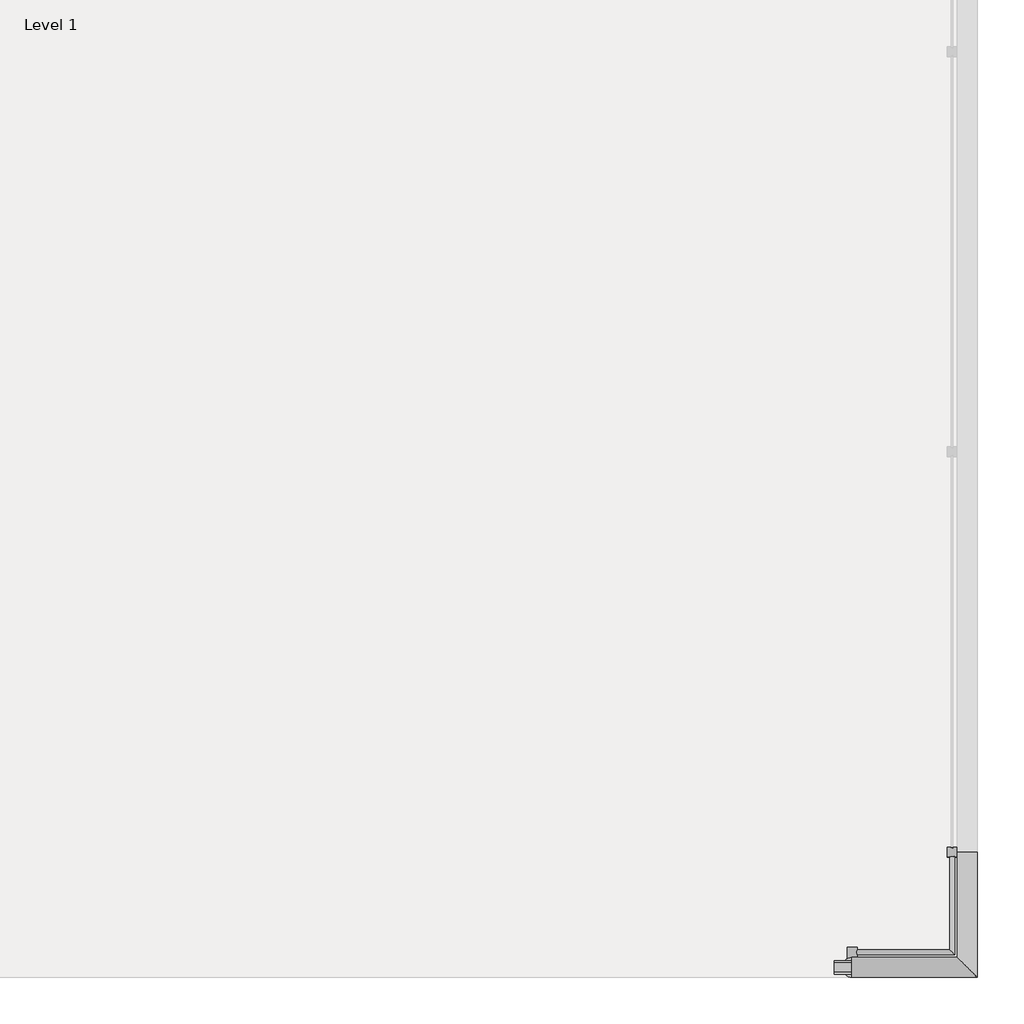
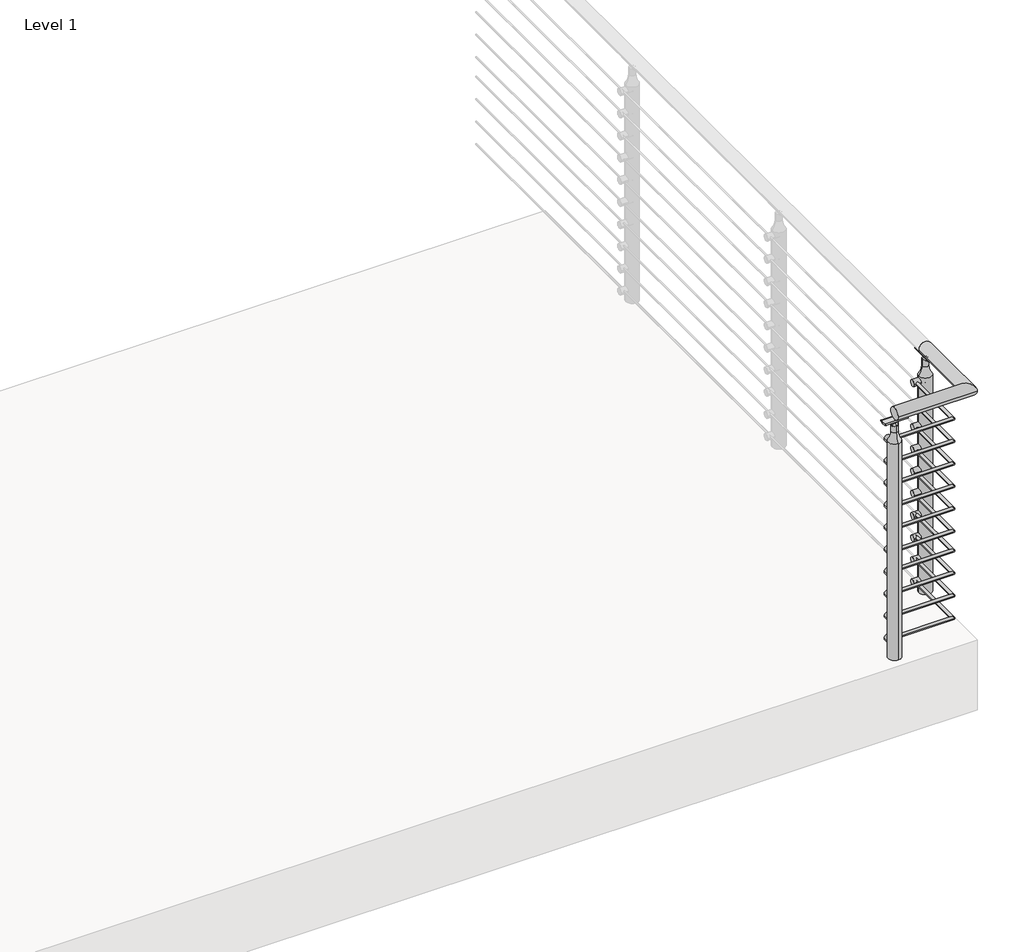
# One storey, part 6 of 21: 1 railing.
"""IFC4 building model written with IfcOpenShell, lengths in millimetres."""

from ifc_helpers import new_model, si_unit, point, frame, frame_2d, origin, place, context, project, spatial, polyline, circle_curve, ellipse_curve, trimmed, segment, composite_curve, outline, extrude, element, save
from ifc_brep_helpers import plane_surface, cylinder_surface, revolved_surface, advanced_brep

model = new_model("IFC4")

# Units and contexts
model_context = context("Model", 3, world=origin())
ifc_project = project(units=[si_unit("LENGTHUNIT", "METRE", prefix="MILLI")], contexts=[model_context])

# Site, building, storey
site = spatial("IfcSite", under=ifc_project)
building = spatial("IfcBuilding", under=site)
storey = spatial("IfcBuildingStorey", under=building, Name="Level 1", Elevation=0.0)

# Railing
placement = place(None, origin())
element("IfcRailing", 1, ObjectType="VIVA-CIRCA-Multiline-Cable-Weld Mount-Corner", at=placement, inside=storey, context=model_context, shape_type="SolidModel", body=[
    advanced_brep(
    [(45029.2855247, -73784.5943064, 1054.1), (45029.2855247, -73733.7943064, 1054.1), (45346.7855247, -73784.5943064, 1054.1), (45295.9855247, -73733.7943064, 1054.1), (45346.7855247, -73467.0943064, 1054.1), (45295.9855247, -73467.0943064, 1054.1)],
    [
        (0, 1, circle_curve(frame((45029.2855247, -73759.1943064, 1054.1), z_axis=(-1.0, 0.0, 0.0), x_axis=(0.0, 1.0, 0.0)), 25.4)),
        (1, 0, circle_curve(frame((45029.2855247, -73759.1943064, 1054.1), z_axis=(-1.0, 0.0, 0.0), x_axis=(0.0, 1.0, 0.0)), 25.4)),
        (0, 2),
        (2, 3, ellipse_curve(frame((45321.3855247, -73759.1943064, 1054.1), z_axis=(-0.7071067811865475, -0.7071067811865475, 0.0), x_axis=(-0.7071067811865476, 0.7071067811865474, 0.0)), 35.9210245, 25.4)),
        (3, 1),
        (3, 2, ellipse_curve(frame((45321.3855247, -73759.1943064, 1054.1), z_axis=(-0.7071067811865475, -0.7071067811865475, 0.0), x_axis=(-0.7071067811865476, 0.7071067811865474, 0.0)), 35.9210245, 25.4)),
        (4, 5, circle_curve(frame((45321.3855247, -73467.0943064, 1054.1), z_axis=(0.0, 1.0, 0.0), x_axis=(-1.0, 0.0, 0.0)), 25.4)),
        (5, 4, circle_curve(frame((45321.3855247, -73467.0943064, 1054.1), z_axis=(0.0, 1.0, 0.0), x_axis=(-1.0, 0.0, 0.0)), 25.4)),
        (2, 4),
        (5, 3),
    ],
    [
        plane_surface(frame((45029.2855247, -73759.1943064, 1079.5), z_axis=(-1.0, 0.0, 0.0), x_axis=(0.0, 1.0, 0.0))),
        cylinder_surface(frame((45029.2855247, -73759.1943064, 1054.1), z_axis=(-1.0, 0.0, 0.0), x_axis=(0.0, 1.0, 0.0)), 25.4),
        plane_surface(frame((45321.3855247, -73467.0943064, 1079.5), z_axis=(0.0, 1.0, 0.0), x_axis=(0.0, 0.0, 1.0))),
        cylinder_surface(frame((45321.3855247, -73759.1943064, 1054.1), z_axis=(0.0, -1.0, 0.0), x_axis=(-1.0, 0.0, 0.0)), 25.4),
    ],
    [
        (0, [[1, 2]]),
        (1, [[-1, 3, 4, 5]]),
        (1, [[-2, -5, 6, -3]]),
        (2, [[7, 8]]),
        (3, [[-4, 9, -8, 10]]),
        (3, [[-6, -10, -7, -9]]),
    ],
),
    advanced_brep(
    [(45029.2855247, -73714.7443064, 920.75), (45029.2855247, -73727.4443064, 920.75), (45276.9355247, -73714.7443064, 920.75), (45289.6355247, -73727.4443064, 920.75), (45276.9355247, -73467.0943064, 920.75), (45289.6355247, -73467.0943064, 920.75)],
    [
        (0, 1, circle_curve(frame((45029.2855247, -73721.0943064, 920.75), z_axis=(-1.0, 0.0, 0.0), x_axis=(0.0, -1.0, 0.0)), 6.35)),
        (1, 0, circle_curve(frame((45029.2855247, -73721.0943064, 920.75), z_axis=(-1.0, 0.0, 0.0), x_axis=(0.0, -1.0, 0.0)), 6.35)),
        (0, 2),
        (2, 3, ellipse_curve(frame((45283.2855247, -73721.0943064, 920.75), z_axis=(-0.7071067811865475, -0.7071067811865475, 0.0), x_axis=(-0.7071067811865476, 0.7071067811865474, 0.0)), 8.9802561, 6.35)),
        (3, 1),
        (3, 2, ellipse_curve(frame((45283.2855247, -73721.0943064, 920.75), z_axis=(-0.7071067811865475, -0.7071067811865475, 0.0), x_axis=(-0.7071067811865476, 0.7071067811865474, 0.0)), 8.9802561, 6.35)),
        (4, 5, circle_curve(frame((45283.2855247, -73467.0943064, 920.75), z_axis=(0.0, 1.0, 0.0), x_axis=(1.0, 0.0, 0.0)), 6.35)),
        (5, 4, circle_curve(frame((45283.2855247, -73467.0943064, 920.75), z_axis=(0.0, 1.0, 0.0), x_axis=(1.0, 0.0, 0.0)), 6.35)),
        (2, 4),
        (5, 3),
    ],
    [
        plane_surface(frame((45029.2855247, -73721.0943064, 927.1), z_axis=(-1.0, 0.0, 0.0), x_axis=(0.0, 1.0, 0.0))),
        cylinder_surface(frame((45029.2855247, -73721.0943064, 920.75), z_axis=(-1.0, 0.0, 0.0), x_axis=(0.0, -1.0, 0.0)), 6.35),
        plane_surface(frame((45283.2855247, -73467.0943064, 927.1), z_axis=(0.0, 1.0, 0.0), x_axis=(0.0, 0.0, 1.0))),
        cylinder_surface(frame((45283.2855247, -73721.0943064, 920.75), z_axis=(0.0, -1.0, 0.0), x_axis=(1.0, 0.0, 0.0)), 6.35),
    ],
    [
        (0, [[1, 2]]),
        (1, [[-1, 3, 4, 5]]),
        (1, [[-2, -5, 6, -3]]),
        (2, [[7, 8]]),
        (3, [[-4, 9, -8, 10]]),
        (3, [[-6, -10, -7, -9]]),
    ],
),
    advanced_brep(
    [(45029.2855247, -73714.7443064, 825.5), (45029.2855247, -73727.4443064, 825.5), (45276.9355247, -73714.7443064, 825.5), (45289.6355247, -73727.4443064, 825.5), (45276.9355247, -73467.0943064, 825.5), (45289.6355247, -73467.0943064, 825.5)],
    [
        (0, 1, circle_curve(frame((45029.2855247, -73721.0943064, 825.5), z_axis=(-1.0, 0.0, 0.0), x_axis=(0.0, -1.0, 0.0)), 6.35)),
        (1, 0, circle_curve(frame((45029.2855247, -73721.0943064, 825.5), z_axis=(-1.0, 0.0, 0.0), x_axis=(0.0, -1.0, 0.0)), 6.35)),
        (0, 2),
        (2, 3, ellipse_curve(frame((45283.2855247, -73721.0943064, 825.5), z_axis=(-0.7071067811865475, -0.7071067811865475, 0.0), x_axis=(-0.7071067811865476, 0.7071067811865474, 0.0)), 8.9802561, 6.35)),
        (3, 1),
        (3, 2, ellipse_curve(frame((45283.2855247, -73721.0943064, 825.5), z_axis=(-0.7071067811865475, -0.7071067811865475, 0.0), x_axis=(-0.7071067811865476, 0.7071067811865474, 0.0)), 8.9802561, 6.35)),
        (4, 5, circle_curve(frame((45283.2855247, -73467.0943064, 825.5), z_axis=(0.0, 1.0, 0.0), x_axis=(1.0, 0.0, 0.0)), 6.35)),
        (5, 4, circle_curve(frame((45283.2855247, -73467.0943064, 825.5), z_axis=(0.0, 1.0, 0.0), x_axis=(1.0, 0.0, 0.0)), 6.35)),
        (2, 4),
        (5, 3),
    ],
    [
        plane_surface(frame((45029.2855247, -73721.0943064, 831.85), z_axis=(-1.0, 0.0, 0.0), x_axis=(0.0, 1.0, 0.0))),
        cylinder_surface(frame((45029.2855247, -73721.0943064, 825.5), z_axis=(-1.0, 0.0, 0.0), x_axis=(0.0, -1.0, 0.0)), 6.35),
        plane_surface(frame((45283.2855247, -73467.0943064, 831.85), z_axis=(0.0, 1.0, 0.0), x_axis=(0.0, 0.0, 1.0))),
        cylinder_surface(frame((45283.2855247, -73721.0943064, 825.5), z_axis=(0.0, -1.0, 0.0), x_axis=(1.0, 0.0, 0.0)), 6.35),
    ],
    [
        (0, [[1, 2]]),
        (1, [[-1, 3, 4, 5]]),
        (1, [[-2, -5, 6, -3]]),
        (2, [[7, 8]]),
        (3, [[-4, 9, -8, 10]]),
        (3, [[-6, -10, -7, -9]]),
    ],
),
    advanced_brep(
    [(45029.2855247, -73714.7443064, 730.25), (45029.2855247, -73727.4443064, 730.25), (45276.9355247, -73714.7443064, 730.25), (45289.6355247, -73727.4443064, 730.25), (45276.9355247, -73467.0943064, 730.25), (45289.6355247, -73467.0943064, 730.25)],
    [
        (0, 1, circle_curve(frame((45029.2855247, -73721.0943064, 730.25), z_axis=(-1.0, 0.0, 0.0), x_axis=(0.0, -1.0, 0.0)), 6.35)),
        (1, 0, circle_curve(frame((45029.2855247, -73721.0943064, 730.25), z_axis=(-1.0, 0.0, 0.0), x_axis=(0.0, -1.0, 0.0)), 6.35)),
        (0, 2),
        (2, 3, ellipse_curve(frame((45283.2855247, -73721.0943064, 730.25), z_axis=(-0.7071067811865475, -0.7071067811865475, 0.0), x_axis=(-0.7071067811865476, 0.7071067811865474, 0.0)), 8.9802561, 6.35)),
        (3, 1),
        (3, 2, ellipse_curve(frame((45283.2855247, -73721.0943064, 730.25), z_axis=(-0.7071067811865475, -0.7071067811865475, 0.0), x_axis=(-0.7071067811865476, 0.7071067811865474, 0.0)), 8.9802561, 6.35)),
        (4, 5, circle_curve(frame((45283.2855247, -73467.0943064, 730.25), z_axis=(0.0, 1.0, 0.0), x_axis=(1.0, 0.0, 0.0)), 6.35)),
        (5, 4, circle_curve(frame((45283.2855247, -73467.0943064, 730.25), z_axis=(0.0, 1.0, 0.0), x_axis=(1.0, 0.0, 0.0)), 6.35)),
        (2, 4),
        (5, 3),
    ],
    [
        plane_surface(frame((45029.2855247, -73721.0943064, 736.6), z_axis=(-1.0, 0.0, 0.0), x_axis=(0.0, 1.0, 0.0))),
        cylinder_surface(frame((45029.2855247, -73721.0943064, 730.25), z_axis=(-1.0, 0.0, 0.0), x_axis=(0.0, -1.0, 0.0)), 6.35),
        plane_surface(frame((45283.2855247, -73467.0943064, 736.6), z_axis=(0.0, 1.0, 0.0), x_axis=(0.0, 0.0, 1.0))),
        cylinder_surface(frame((45283.2855247, -73721.0943064, 730.25), z_axis=(0.0, -1.0, 0.0), x_axis=(1.0, 0.0, 0.0)), 6.35),
    ],
    [
        (0, [[1, 2]]),
        (1, [[-1, 3, 4, 5]]),
        (1, [[-2, -5, 6, -3]]),
        (2, [[7, 8]]),
        (3, [[-4, 9, -8, 10]]),
        (3, [[-6, -10, -7, -9]]),
    ],
),
    advanced_brep(
    [(45029.2855247, -73714.7443064, 635.0), (45029.2855247, -73727.4443064, 635.0), (45276.9355247, -73714.7443064, 635.0), (45289.6355247, -73727.4443064, 635.0), (45276.9355247, -73467.0943064, 635.0), (45289.6355247, -73467.0943064, 635.0)],
    [
        (0, 1, circle_curve(frame((45029.2855247, -73721.0943064, 635.0), z_axis=(-1.0, 0.0, 0.0), x_axis=(0.0, -1.0, 0.0)), 6.35)),
        (1, 0, circle_curve(frame((45029.2855247, -73721.0943064, 635.0), z_axis=(-1.0, 0.0, 0.0), x_axis=(0.0, -1.0, 0.0)), 6.35)),
        (0, 2),
        (2, 3, ellipse_curve(frame((45283.2855247, -73721.0943064, 635.0), z_axis=(-0.7071067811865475, -0.7071067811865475, 0.0), x_axis=(-0.7071067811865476, 0.7071067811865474, 0.0)), 8.9802561, 6.35)),
        (3, 1),
        (3, 2, ellipse_curve(frame((45283.2855247, -73721.0943064, 635.0), z_axis=(-0.7071067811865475, -0.7071067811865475, 0.0), x_axis=(-0.7071067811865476, 0.7071067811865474, 0.0)), 8.9802561, 6.35)),
        (4, 5, circle_curve(frame((45283.2855247, -73467.0943064, 635.0), z_axis=(0.0, 1.0, 0.0), x_axis=(1.0, 0.0, 0.0)), 6.35)),
        (5, 4, circle_curve(frame((45283.2855247, -73467.0943064, 635.0), z_axis=(0.0, 1.0, 0.0), x_axis=(1.0, 0.0, 0.0)), 6.35)),
        (2, 4),
        (5, 3),
    ],
    [
        plane_surface(frame((45029.2855247, -73721.0943064, 641.35), z_axis=(-1.0, 0.0, 0.0), x_axis=(0.0, 1.0, 0.0))),
        cylinder_surface(frame((45029.2855247, -73721.0943064, 635.0), z_axis=(-1.0, 0.0, 0.0), x_axis=(0.0, -1.0, 0.0)), 6.35),
        plane_surface(frame((45283.2855247, -73467.0943064, 641.35), z_axis=(0.0, 1.0, 0.0), x_axis=(0.0, 0.0, 1.0))),
        cylinder_surface(frame((45283.2855247, -73721.0943064, 635.0), z_axis=(0.0, -1.0, 0.0), x_axis=(1.0, 0.0, 0.0)), 6.35),
    ],
    [
        (0, [[1, 2]]),
        (1, [[-1, 3, 4, 5]]),
        (1, [[-2, -5, 6, -3]]),
        (2, [[7, 8]]),
        (3, [[-4, 9, -8, 10]]),
        (3, [[-6, -10, -7, -9]]),
    ],
),
    advanced_brep(
    [(45029.2855247, -73714.7443064, 539.75), (45029.2855247, -73727.4443064, 539.75), (45276.9355247, -73714.7443064, 539.75), (45289.6355247, -73727.4443064, 539.75), (45276.9355247, -73467.0943064, 539.75), (45289.6355247, -73467.0943064, 539.75)],
    [
        (0, 1, circle_curve(frame((45029.2855247, -73721.0943064, 539.75), z_axis=(-1.0, 0.0, 0.0), x_axis=(0.0, -1.0, 0.0)), 6.35)),
        (1, 0, circle_curve(frame((45029.2855247, -73721.0943064, 539.75), z_axis=(-1.0, 0.0, 0.0), x_axis=(0.0, -1.0, 0.0)), 6.35)),
        (0, 2),
        (2, 3, ellipse_curve(frame((45283.2855247, -73721.0943064, 539.75), z_axis=(-0.7071067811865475, -0.7071067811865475, 0.0), x_axis=(-0.7071067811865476, 0.7071067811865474, 0.0)), 8.9802561, 6.35)),
        (3, 1),
        (3, 2, ellipse_curve(frame((45283.2855247, -73721.0943064, 539.75), z_axis=(-0.7071067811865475, -0.7071067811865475, 0.0), x_axis=(-0.7071067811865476, 0.7071067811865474, 0.0)), 8.9802561, 6.35)),
        (4, 5, circle_curve(frame((45283.2855247, -73467.0943064, 539.75), z_axis=(0.0, 1.0, 0.0), x_axis=(1.0, 0.0, 0.0)), 6.35)),
        (5, 4, circle_curve(frame((45283.2855247, -73467.0943064, 539.75), z_axis=(0.0, 1.0, 0.0), x_axis=(1.0, 0.0, 0.0)), 6.35)),
        (2, 4),
        (5, 3),
    ],
    [
        plane_surface(frame((45029.2855247, -73721.0943064, 546.1), z_axis=(-1.0, 0.0, 0.0), x_axis=(0.0, 1.0, 0.0))),
        cylinder_surface(frame((45029.2855247, -73721.0943064, 539.75), z_axis=(-1.0, 0.0, 0.0), x_axis=(0.0, -1.0, 0.0)), 6.35),
        plane_surface(frame((45283.2855247, -73467.0943064, 546.1), z_axis=(0.0, 1.0, 0.0), x_axis=(0.0, 0.0, 1.0))),
        cylinder_surface(frame((45283.2855247, -73721.0943064, 539.75), z_axis=(0.0, -1.0, 0.0), x_axis=(1.0, 0.0, 0.0)), 6.35),
    ],
    [
        (0, [[1, 2]]),
        (1, [[-1, 3, 4, 5]]),
        (1, [[-2, -5, 6, -3]]),
        (2, [[7, 8]]),
        (3, [[-4, 9, -8, 10]]),
        (3, [[-6, -10, -7, -9]]),
    ],
),
    advanced_brep(
    [(45029.2855247, -73714.7443064, 444.5), (45029.2855247, -73727.4443064, 444.5), (45276.9355247, -73714.7443064, 444.5), (45289.6355247, -73727.4443064, 444.5), (45276.9355247, -73467.0943064, 444.5), (45289.6355247, -73467.0943064, 444.5)],
    [
        (0, 1, circle_curve(frame((45029.2855247, -73721.0943064, 444.5), z_axis=(-1.0, 0.0, 0.0), x_axis=(0.0, -1.0, 0.0)), 6.35)),
        (1, 0, circle_curve(frame((45029.2855247, -73721.0943064, 444.5), z_axis=(-1.0, 0.0, 0.0), x_axis=(0.0, -1.0, 0.0)), 6.35)),
        (0, 2),
        (2, 3, ellipse_curve(frame((45283.2855247, -73721.0943064, 444.5), z_axis=(-0.7071067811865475, -0.7071067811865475, 0.0), x_axis=(-0.7071067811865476, 0.7071067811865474, 0.0)), 8.9802561, 6.35)),
        (3, 1),
        (3, 2, ellipse_curve(frame((45283.2855247, -73721.0943064, 444.5), z_axis=(-0.7071067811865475, -0.7071067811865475, 0.0), x_axis=(-0.7071067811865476, 0.7071067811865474, 0.0)), 8.9802561, 6.35)),
        (4, 5, circle_curve(frame((45283.2855247, -73467.0943064, 444.5), z_axis=(0.0, 1.0, 0.0), x_axis=(1.0, 0.0, 0.0)), 6.35)),
        (5, 4, circle_curve(frame((45283.2855247, -73467.0943064, 444.5), z_axis=(0.0, 1.0, 0.0), x_axis=(1.0, 0.0, 0.0)), 6.35)),
        (2, 4),
        (5, 3),
    ],
    [
        plane_surface(frame((45029.2855247, -73721.0943064, 450.85), z_axis=(-1.0, 0.0, 0.0), x_axis=(0.0, 1.0, 0.0))),
        cylinder_surface(frame((45029.2855247, -73721.0943064, 444.5), z_axis=(-1.0, 0.0, 0.0), x_axis=(0.0, -1.0, 0.0)), 6.35),
        plane_surface(frame((45283.2855247, -73467.0943064, 450.85), z_axis=(0.0, 1.0, 0.0), x_axis=(0.0, 0.0, 1.0))),
        cylinder_surface(frame((45283.2855247, -73721.0943064, 444.5), z_axis=(0.0, -1.0, 0.0), x_axis=(1.0, 0.0, 0.0)), 6.35),
    ],
    [
        (0, [[1, 2]]),
        (1, [[-1, 3, 4, 5]]),
        (1, [[-2, -5, 6, -3]]),
        (2, [[7, 8]]),
        (3, [[-4, 9, -8, 10]]),
        (3, [[-6, -10, -7, -9]]),
    ],
),
    advanced_brep(
    [(45029.2855247, -73714.7443064, 361.95), (45029.2855247, -73727.4443064, 361.95), (45276.9355247, -73714.7443064, 361.95), (45289.6355247, -73727.4443064, 361.95), (45276.9355247, -73467.0943064, 361.95), (45289.6355247, -73467.0943064, 361.95)],
    [
        (0, 1, circle_curve(frame((45029.2855247, -73721.0943064, 361.95), z_axis=(-1.0, 0.0, 0.0), x_axis=(0.0, -1.0, 0.0)), 6.35)),
        (1, 0, circle_curve(frame((45029.2855247, -73721.0943064, 361.95), z_axis=(-1.0, 0.0, 0.0), x_axis=(0.0, -1.0, 0.0)), 6.35)),
        (0, 2),
        (2, 3, ellipse_curve(frame((45283.2855247, -73721.0943064, 361.95), z_axis=(-0.7071067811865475, -0.7071067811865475, 0.0), x_axis=(-0.7071067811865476, 0.7071067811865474, 0.0)), 8.9802561, 6.35)),
        (3, 1),
        (3, 2, ellipse_curve(frame((45283.2855247, -73721.0943064, 361.95), z_axis=(-0.7071067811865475, -0.7071067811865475, 0.0), x_axis=(-0.7071067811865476, 0.7071067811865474, 0.0)), 8.9802561, 6.35)),
        (4, 5, circle_curve(frame((45283.2855247, -73467.0943064, 361.95), z_axis=(0.0, 1.0, 0.0), x_axis=(1.0, 0.0, 0.0)), 6.35)),
        (5, 4, circle_curve(frame((45283.2855247, -73467.0943064, 361.95), z_axis=(0.0, 1.0, 0.0), x_axis=(1.0, 0.0, 0.0)), 6.35)),
        (2, 4),
        (5, 3),
    ],
    [
        plane_surface(frame((45029.2855247, -73721.0943064, 368.3), z_axis=(-1.0, 0.0, 0.0), x_axis=(0.0, 1.0, 0.0))),
        cylinder_surface(frame((45029.2855247, -73721.0943064, 361.95), z_axis=(-1.0, 0.0, 0.0), x_axis=(0.0, -1.0, 0.0)), 6.35),
        plane_surface(frame((45283.2855247, -73467.0943064, 368.3), z_axis=(0.0, 1.0, 0.0), x_axis=(0.0, 0.0, 1.0))),
        cylinder_surface(frame((45283.2855247, -73721.0943064, 361.95), z_axis=(0.0, -1.0, 0.0), x_axis=(1.0, 0.0, 0.0)), 6.35),
    ],
    [
        (0, [[1, 2]]),
        (1, [[-1, 3, 4, 5]]),
        (1, [[-2, -5, 6, -3]]),
        (2, [[7, 8]]),
        (3, [[-4, 9, -8, 10]]),
        (3, [[-6, -10, -7, -9]]),
    ],
),
    advanced_brep(
    [(45029.2855247, -73714.7443064, 266.7), (45029.2855247, -73727.4443064, 266.7), (45276.9355247, -73714.7443064, 266.7), (45289.6355247, -73727.4443064, 266.7), (45276.9355247, -73467.0943064, 266.7), (45289.6355247, -73467.0943064, 266.7)],
    [
        (0, 1, circle_curve(frame((45029.2855247, -73721.0943064, 266.7), z_axis=(-1.0, 0.0, 0.0), x_axis=(0.0, -1.0, 0.0)), 6.35)),
        (1, 0, circle_curve(frame((45029.2855247, -73721.0943064, 266.7), z_axis=(-1.0, 0.0, 0.0), x_axis=(0.0, -1.0, 0.0)), 6.35)),
        (0, 2),
        (2, 3, ellipse_curve(frame((45283.2855247, -73721.0943064, 266.7), z_axis=(-0.7071067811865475, -0.7071067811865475, 0.0), x_axis=(-0.7071067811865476, 0.7071067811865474, 0.0)), 8.9802561, 6.35)),
        (3, 1),
        (3, 2, ellipse_curve(frame((45283.2855247, -73721.0943064, 266.7), z_axis=(-0.7071067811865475, -0.7071067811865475, 0.0), x_axis=(-0.7071067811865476, 0.7071067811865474, 0.0)), 8.9802561, 6.35)),
        (4, 5, circle_curve(frame((45283.2855247, -73467.0943064, 266.7), z_axis=(0.0, 1.0, 0.0), x_axis=(1.0, 0.0, 0.0)), 6.35)),
        (5, 4, circle_curve(frame((45283.2855247, -73467.0943064, 266.7), z_axis=(0.0, 1.0, 0.0), x_axis=(1.0, 0.0, 0.0)), 6.35)),
        (2, 4),
        (5, 3),
    ],
    [
        plane_surface(frame((45029.2855247, -73721.0943064, 273.05), z_axis=(-1.0, 0.0, 0.0), x_axis=(0.0, 1.0, 0.0))),
        cylinder_surface(frame((45029.2855247, -73721.0943064, 266.7), z_axis=(-1.0, 0.0, 0.0), x_axis=(0.0, -1.0, 0.0)), 6.35),
        plane_surface(frame((45283.2855247, -73467.0943064, 273.05), z_axis=(0.0, 1.0, 0.0), x_axis=(0.0, 0.0, 1.0))),
        cylinder_surface(frame((45283.2855247, -73721.0943064, 266.7), z_axis=(0.0, -1.0, 0.0), x_axis=(1.0, 0.0, 0.0)), 6.35),
    ],
    [
        (0, [[1, 2]]),
        (1, [[-1, 3, 4, 5]]),
        (1, [[-2, -5, 6, -3]]),
        (2, [[7, 8]]),
        (3, [[-4, 9, -8, 10]]),
        (3, [[-6, -10, -7, -9]]),
    ],
),
    advanced_brep(
    [(45029.2855247, -73714.7443064, 171.45), (45029.2855247, -73727.4443064, 171.45), (45276.9355247, -73714.7443064, 171.45), (45289.6355247, -73727.4443064, 171.45), (45276.9355247, -73467.0943064, 171.45), (45289.6355247, -73467.0943064, 171.45)],
    [
        (0, 1, circle_curve(frame((45029.2855247, -73721.0943064, 171.45), z_axis=(-1.0, 0.0, 0.0), x_axis=(0.0, -1.0, 0.0)), 6.35)),
        (1, 0, circle_curve(frame((45029.2855247, -73721.0943064, 171.45), z_axis=(-1.0, 0.0, 0.0), x_axis=(0.0, -1.0, 0.0)), 6.35)),
        (0, 2),
        (2, 3, ellipse_curve(frame((45283.2855247, -73721.0943064, 171.45), z_axis=(-0.7071067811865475, -0.7071067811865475, 0.0), x_axis=(-0.7071067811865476, 0.7071067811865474, 0.0)), 8.9802561, 6.35)),
        (3, 1),
        (3, 2, ellipse_curve(frame((45283.2855247, -73721.0943064, 171.45), z_axis=(-0.7071067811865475, -0.7071067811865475, 0.0), x_axis=(-0.7071067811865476, 0.7071067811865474, 0.0)), 8.9802561, 6.35)),
        (4, 5, circle_curve(frame((45283.2855247, -73467.0943064, 171.45), z_axis=(0.0, 1.0, 0.0), x_axis=(1.0, 0.0, 0.0)), 6.35)),
        (5, 4, circle_curve(frame((45283.2855247, -73467.0943064, 171.45), z_axis=(0.0, 1.0, 0.0), x_axis=(1.0, 0.0, 0.0)), 6.35)),
        (2, 4),
        (5, 3),
    ],
    [
        plane_surface(frame((45029.2855247, -73721.0943064, 177.8), z_axis=(-1.0, 0.0, 0.0), x_axis=(0.0, 1.0, 0.0))),
        cylinder_surface(frame((45029.2855247, -73721.0943064, 171.45), z_axis=(-1.0, 0.0, 0.0), x_axis=(0.0, -1.0, 0.0)), 6.35),
        plane_surface(frame((45283.2855247, -73467.0943064, 177.8), z_axis=(0.0, 1.0, 0.0), x_axis=(0.0, 0.0, 1.0))),
        cylinder_surface(frame((45283.2855247, -73721.0943064, 171.45), z_axis=(0.0, -1.0, 0.0), x_axis=(1.0, 0.0, 0.0)), 6.35),
    ],
    [
        (0, [[1, 2]]),
        (1, [[-1, 3, 4, 5]]),
        (1, [[-2, -5, 6, -3]]),
        (2, [[7, 8]]),
        (3, [[-4, 9, -8, 10]]),
        (3, [[-6, -10, -7, -9]]),
    ],
),
    advanced_brep(
    [(45029.2855247, -73714.7443064, 76.2), (45029.2855247, -73727.4443064, 76.2), (45276.9355247, -73714.7443064, 76.2), (45289.6355247, -73727.4443064, 76.2), (45276.9355247, -73467.0943064, 76.2), (45289.6355247, -73467.0943064, 76.2)],
    [
        (0, 1, circle_curve(frame((45029.2855247, -73721.0943064, 76.2), z_axis=(-1.0, 0.0, 0.0), x_axis=(0.0, -1.0, 0.0)), 6.35)),
        (1, 0, circle_curve(frame((45029.2855247, -73721.0943064, 76.2), z_axis=(-1.0, 0.0, 0.0), x_axis=(0.0, -1.0, 0.0)), 6.35)),
        (0, 2),
        (2, 3, ellipse_curve(frame((45283.2855247, -73721.0943064, 76.2), z_axis=(-0.7071067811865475, -0.7071067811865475, 0.0), x_axis=(-0.7071067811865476, 0.7071067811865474, 0.0)), 8.9802561, 6.35)),
        (3, 1),
        (3, 2, ellipse_curve(frame((45283.2855247, -73721.0943064, 76.2), z_axis=(-0.7071067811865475, -0.7071067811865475, 0.0), x_axis=(-0.7071067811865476, 0.7071067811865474, 0.0)), 8.9802561, 6.35)),
        (4, 5, circle_curve(frame((45283.2855247, -73467.0943064, 76.2), z_axis=(0.0, 1.0, 0.0), x_axis=(1.0, 0.0, 0.0)), 6.35)),
        (5, 4, circle_curve(frame((45283.2855247, -73467.0943064, 76.2), z_axis=(0.0, 1.0, 0.0), x_axis=(1.0, 0.0, 0.0)), 6.35)),
        (2, 4),
        (5, 3),
    ],
    [
        plane_surface(frame((45029.2855247, -73721.0943064, 82.55), z_axis=(-1.0, 0.0, 0.0), x_axis=(0.0, 1.0, 0.0))),
        cylinder_surface(frame((45029.2855247, -73721.0943064, 76.2), z_axis=(-1.0, 0.0, 0.0), x_axis=(0.0, -1.0, 0.0)), 6.35),
        plane_surface(frame((45283.2855247, -73467.0943064, 82.55), z_axis=(0.0, 1.0, 0.0), x_axis=(0.0, 0.0, 1.0))),
        cylinder_surface(frame((45283.2855247, -73721.0943064, 76.2), z_axis=(0.0, -1.0, 0.0), x_axis=(1.0, 0.0, 0.0)), 6.35),
    ],
    [
        (0, [[1, 2]]),
        (1, [[-1, 3, 4, 5]]),
        (1, [[-2, -5, 6, -3]]),
        (2, [[7, 8]]),
        (3, [[-4, 9, -8, 10]]),
        (3, [[-6, -10, -7, -9]]),
    ],
),
    extrude(outline(composite_curve([segment(trimmed(circle_curve(frame_2d((-73466.3005564, 76.2)), 12.666458), [point((-73453.6340985, 76.2))], [point((-73478.9670144, 76.2))], False, "CARTESIAN"), True, "CONTINUOUS"), segment(trimmed(circle_curve(frame_2d((-73466.3005564, 76.2)), 12.666458), [point((-73478.9670144, 76.2))], [point((-73453.6340985, 76.2))], False, "CARTESIAN"), True, "CONTINUOUS")], self_intersect=False)), frame((45270.5855247, 0.0, 0.0), z_axis=(1.0, 0.0, 0.0), x_axis=(0.0, 1.0, 0.0)), (0.0, 0.0, 1.0), 50.8),
    extrude(outline(composite_curve([segment(trimmed(circle_curve(frame_2d((-73466.3005564, 170.0388889)), 12.666458), [point((-73453.6340985, 170.0388889))], [point((-73478.9670144, 170.0388889))], False, "CARTESIAN"), True, "CONTINUOUS"), segment(trimmed(circle_curve(frame_2d((-73466.3005564, 170.0388889)), 12.666458), [point((-73478.9670144, 170.0388889))], [point((-73453.6340985, 170.0388889))], False, "CARTESIAN"), True, "CONTINUOUS")], self_intersect=False)), frame((45270.5855247, 0.0, 0.0), z_axis=(1.0, 0.0, 0.0), x_axis=(0.0, 1.0, 0.0)), (0.0, 0.0, 1.0), 50.8),
    extrude(outline(composite_curve([segment(trimmed(circle_curve(frame_2d((-73466.3005564, 263.8777778)), 12.666458), [point((-73453.6340985, 263.8777778))], [point((-73478.9670144, 263.8777778))], False, "CARTESIAN"), True, "CONTINUOUS"), segment(trimmed(circle_curve(frame_2d((-73466.3005564, 263.8777778)), 12.666458), [point((-73478.9670144, 263.8777778))], [point((-73453.6340985, 263.8777778))], False, "CARTESIAN"), True, "CONTINUOUS")], self_intersect=False)), frame((45270.5855247, 0.0, 0.0), z_axis=(1.0, 0.0, 0.0), x_axis=(0.0, 1.0, 0.0)), (0.0, 0.0, 1.0), 50.8),
    extrude(outline(composite_curve([segment(trimmed(circle_curve(frame_2d((-73466.3005564, 357.7166667)), 12.666458), [point((-73453.6340985, 357.7166667))], [point((-73478.9670144, 357.7166667))], False, "CARTESIAN"), True, "CONTINUOUS"), segment(trimmed(circle_curve(frame_2d((-73466.3005564, 357.7166667)), 12.666458), [point((-73478.9670144, 357.7166667))], [point((-73453.6340985, 357.7166667))], False, "CARTESIAN"), True, "CONTINUOUS")], self_intersect=False)), frame((45270.5855247, 0.0, 0.0), z_axis=(1.0, 0.0, 0.0), x_axis=(0.0, 1.0, 0.0)), (0.0, 0.0, 1.0), 50.8),
    extrude(outline(composite_curve([segment(trimmed(circle_curve(frame_2d((-73466.3005564, 451.5555556)), 12.666458), [point((-73453.6340985, 451.5555556))], [point((-73478.9670144, 451.5555556))], False, "CARTESIAN"), True, "CONTINUOUS"), segment(trimmed(circle_curve(frame_2d((-73466.3005564, 451.5555556)), 12.666458), [point((-73478.9670144, 451.5555556))], [point((-73453.6340985, 451.5555556))], False, "CARTESIAN"), True, "CONTINUOUS")], self_intersect=False)), frame((45270.5855247, 0.0, 0.0), z_axis=(1.0, 0.0, 0.0), x_axis=(0.0, 1.0, 0.0)), (0.0, 0.0, 1.0), 50.8),
    extrude(outline(composite_curve([segment(trimmed(circle_curve(frame_2d((-73466.3005564, 545.3944444)), 12.666458), [point((-73453.6340985, 545.3944444))], [point((-73478.9670144, 545.3944444))], False, "CARTESIAN"), True, "CONTINUOUS"), segment(trimmed(circle_curve(frame_2d((-73466.3005564, 545.3944444)), 12.666458), [point((-73478.9670144, 545.3944444))], [point((-73453.6340985, 545.3944444))], False, "CARTESIAN"), True, "CONTINUOUS")], self_intersect=False)), frame((45270.5855247, 0.0, 0.0), z_axis=(1.0, 0.0, 0.0), x_axis=(0.0, 1.0, 0.0)), (0.0, 0.0, 1.0), 50.8),
    extrude(outline(composite_curve([segment(trimmed(circle_curve(frame_2d((-73466.3005564, 639.2333333)), 12.666458), [point((-73453.6340985, 639.2333333))], [point((-73478.9670144, 639.2333333))], False, "CARTESIAN"), True, "CONTINUOUS"), segment(trimmed(circle_curve(frame_2d((-73466.3005564, 639.2333333)), 12.666458), [point((-73478.9670144, 639.2333333))], [point((-73453.6340985, 639.2333333))], False, "CARTESIAN"), True, "CONTINUOUS")], self_intersect=False)), frame((45270.5855247, 0.0, 0.0), z_axis=(1.0, 0.0, 0.0), x_axis=(0.0, 1.0, 0.0)), (0.0, 0.0, 1.0), 50.8),
    extrude(outline(composite_curve([segment(trimmed(circle_curve(frame_2d((-73466.3005564, 733.0722222)), 12.666458), [point((-73453.6340985, 733.0722222))], [point((-73478.9670144, 733.0722222))], False, "CARTESIAN"), True, "CONTINUOUS"), segment(trimmed(circle_curve(frame_2d((-73466.3005564, 733.0722222)), 12.666458), [point((-73478.9670144, 733.0722222))], [point((-73453.6340985, 733.0722222))], False, "CARTESIAN"), True, "CONTINUOUS")], self_intersect=False)), frame((45270.5855247, 0.0, 0.0), z_axis=(1.0, 0.0, 0.0), x_axis=(0.0, 1.0, 0.0)), (0.0, 0.0, 1.0), 50.8),
    extrude(outline(composite_curve([segment(trimmed(circle_curve(frame_2d((-73466.3005564, 920.75)), 12.666458), [point((-73453.6340985, 920.75))], [point((-73478.9670144, 920.75))], False, "CARTESIAN"), True, "CONTINUOUS"), segment(trimmed(circle_curve(frame_2d((-73466.3005564, 920.75)), 12.666458), [point((-73478.9670144, 920.75))], [point((-73453.6340985, 920.75))], False, "CARTESIAN"), True, "CONTINUOUS")], self_intersect=False)), frame((45270.5855247, 0.0, 0.0), z_axis=(1.0, 0.0, 0.0), x_axis=(0.0, 1.0, 0.0)), (0.0, 0.0, 1.0), 50.8),
    extrude(outline(composite_curve([segment(trimmed(circle_curve(frame_2d((-73466.3005564, 826.9111111)), 12.666458), [point((-73453.6340985, 826.9111111))], [point((-73478.9670144, 826.9111111))], False, "CARTESIAN"), True, "CONTINUOUS"), segment(trimmed(circle_curve(frame_2d((-73466.3005564, 826.9111111)), 12.666458), [point((-73478.9670144, 826.9111111))], [point((-73453.6340985, 826.9111111))], False, "CARTESIAN"), True, "CONTINUOUS")], self_intersect=False)), frame((45270.5855247, 0.0, 0.0), z_axis=(1.0, 0.0, 0.0), x_axis=(0.0, 1.0, 0.0)), (0.0, 0.0, 1.0), 50.8),
    extrude(outline(composite_curve([segment(trimmed(circle_curve(frame_2d((1055.4254922, 45321.2887963)), 25.4345159), [point((1033.3106679, 45333.8525992))], [point((1033.2157471, 45308.8935626))], True, "CARTESIAN"), True, "CONTINUOUS"), segment(trimmed(circle_curve(frame_2d((1030.7132623, 45307.6489094)), 2.7949225), [point((1033.2157471, 45308.8935626))], [point((1028.3406769, 45306.1716044))], False, "CARTESIAN"), True, "CONTINUOUS"), segment(trimmed(circle_curve(frame_2d((1056.1881188, 45321.4222594)), 31.75), [point((1028.3406769, 45306.1716044))], [point((1028.9214354, 45337.6884966))], False, "CARTESIAN"), True, "CONTINUOUS"), segment(trimmed(circle_curve(frame_2d((1030.7923545, 45335.4001569)), 2.9558141), [point((1028.9214354, 45337.6884966))], [point((1033.3106679, 45333.8525992))], False, "CARTESIAN"), True, "CONTINUOUS")], self_intersect=False)), frame((0.0, -73511.9348314, 0.0), z_axis=(0.0, 1.0, 0.0), x_axis=(0.0, 0.0, 1.0)), (0.0, 0.0, 1.0), 90.4748),
    extrude(outline(composite_curve([segment(trimmed(circle_curve(frame_2d((-73439.6295165, 1010.282776)), 14.3679149), [point((-73439.6295165, 1024.6506908))], [point((-73453.9974314, 1010.282776))], True, "CARTESIAN"), True, "CONTINUOUS"), segment(trimmed(circle_curve(frame_2d((-73466.6974314, 1010.282776)), 12.7), [point((-73453.9974314, 1010.282776))], [point((-73479.3974314, 1010.282776))], False, "CARTESIAN"), True, "CONTINUOUS"), segment(trimmed(circle_curve(frame_2d((-73493.7653463, 1010.282776)), 14.3679149), [point((-73479.3974314, 1010.282776))], [point((-73493.7653463, 1024.6506908))], True, "CARTESIAN"), True, "CONTINUOUS"), segment(polyline([(-73493.7653463, 1024.6506908), (-73439.6295165, 1024.6506908)]), True, "CONTINUOUS")], self_intersect=False)), frame((45318.8455247, 0.0, 0.0), z_axis=(1.0, 0.0, 0.0), x_axis=(0.0, 1.0, 0.0)), (0.0, 0.0, 1.0), 5.08),
    advanced_brep(
    [(45346.7849225, -73466.6974314, 941.1347854), (45295.9861269, -73466.6974314, 941.1347854), (45295.9861269, -73466.6974314, 25.4), (45346.7849225, -73466.6974314, 25.4), (45334.1234932, -73466.6974314, 979.3486202), (45308.6475562, -73466.6974314, 979.3486202), (45334.1234932, -73466.6974314, 1008.5779599), (45308.6475562, -73466.6974314, 1008.5779599), (45321.3855247, -73466.6974314, 1015.238668), (45321.3855247, -73466.6974314, 25.4)],
    [
        (0, 1, circle_curve(frame((45321.3855247, -73466.6974314, 941.1347854), z_axis=(0.0, 0.0, -1.0), x_axis=(-1.0, 0.0, 0.0)), 25.3993978)),
        (1, 2),
        (2, 3, circle_curve(frame((45321.3855247, -73466.6974314, 25.4), z_axis=(0.0, 0.0, 1.0), x_axis=(-1.0, 0.0, 0.0)), 25.3993978)),
        (3, 0),
        (1, 0, circle_curve(frame((45321.3855247, -73466.6974314, 941.1347854), z_axis=(0.0, 0.0, -1.0), x_axis=(-1.0, 0.0, 0.0)), 25.3993978)),
        (3, 2, circle_curve(frame((45321.3855247, -73466.6974314, 25.4), z_axis=(0.0, 0.0, 1.0), x_axis=(-1.0, 0.0, 0.0)), 25.3993978)),
        (4, 5, circle_curve(frame((45321.3855247, -73466.6974314, 979.3486202), z_axis=(0.0, 0.0, -1.0), x_axis=(-1.0, 0.0, 0.0)), 12.7379685)),
        (5, 1, circle_curve(frame((45244.6496879, -73466.6974314, 979.3486202), z_axis=(0.0, 1.0, 0.0), x_axis=(-1.0, 0.0, 0.0)), 63.9978683)),
        (0, 4, circle_curve(frame((45398.1213615, -73466.6974314, 979.3486202), z_axis=(0.0, 1.0, 0.0), x_axis=(1.0, 0.0, 0.0)), 63.9978683)),
        (5, 4, circle_curve(frame((45321.3855247, -73466.6974314, 979.3486202), z_axis=(0.0, 0.0, -1.0), x_axis=(-1.0, 0.0, 0.0)), 12.7379685)),
        (6, 7, circle_curve(frame((45321.3855247, -73466.6974314, 1008.5779599), z_axis=(0.0, 0.0, -1.0), x_axis=(-1.0, 0.0, 0.0)), 12.7379685)),
        (7, 5),
        (4, 6),
        (7, 6, circle_curve(frame((45321.3855247, -73466.6974314, 1008.5779599), z_axis=(0.0, 0.0, -1.0), x_axis=(-1.0, 0.0, 0.0)), 12.7379685)),
        (8, 7, circle_curve(frame((45321.3855247, -73466.6974314, 999.7282394), z_axis=(0.0, -1.0, 0.0), x_axis=(-1.0, 0.0, 0.0)), 15.5104286)),
        (6, 8, circle_curve(frame((45321.3855247, -73466.6974314, 999.7282394), z_axis=(0.0, -1.0, 0.0), x_axis=(1.0, 0.0, 0.0)), 15.5104286)),
        (2, 9),
        (9, 3),
    ],
    [
        cylinder_surface(frame((45321.3855247, -73466.6974314, 1104.9), z_axis=(0.0, 0.0, 1.0), x_axis=(-1.0, 0.0, 0.0)), 25.3993978),
        revolved_surface(trimmed(ellipse_curve(frame((45244.6496879, -73466.6974314, 979.3486202), z_axis=(0.0, -1.0, 0.0), x_axis=(-1.0, 0.0, 0.0)), 63.9978683, 63.9978683), [point((45295.9861269, -73466.6974314, 941.1347854))], [point((45308.6475562, -73466.6974314, 979.3486202))], True, "CARTESIAN"), (45321.3855247, -73466.6974314, 1104.9), (0.0, 0.0, 1.0)),
        cylinder_surface(frame((45321.3855247, -73466.6974314, 1104.9), z_axis=(0.0, 0.0, 1.0), x_axis=(-1.0, 0.0, 0.0)), 12.7379685),
        revolved_surface(trimmed(ellipse_curve(frame((45321.3855247, -73466.6974314, 999.7282394), z_axis=(0.0, 1.0, 0.0), x_axis=(-1.0, 0.0, 0.0)), 15.5104286, 15.5104286), [point((45308.6475562, -73466.6974314, 1008.5779599))], [point((45321.3855247, -73466.6974314, 1015.238668))], True, "CARTESIAN"), (45321.3855247, -73466.6974314, 1104.9), (0.0, 0.0, 1.0)),
        plane_surface(frame((45321.3855247, -73466.6974314, 25.4), z_axis=(0.0, 0.0, -1.0), x_axis=(-1.0, 0.0, 0.0))),
    ],
    [
        (0, [[1, 2, 3, 4]]),
        (0, [[5, -4, 6, -2]]),
        (1, [[7, 8, -1, 9]]),
        (1, [[10, -9, -5, -8]]),
        (2, [[11, 12, -7, 13]]),
        (2, [[14, -13, -10, -12]]),
        (3, [[15, -11, 16]]),
        (3, [[-16, -14, -15]]),
        (4, [[-3, 17, 18]]),
        (4, [[-6, -18, -17]]),
    ],
),
    extrude(outline(composite_curve([segment(trimmed(circle_curve(frame_2d((76.2, 45030.0792747)), 12.666458), [point((76.2, 45042.7457327))], [point((76.2, 45017.4128167))], False, "CARTESIAN"), True, "CONTINUOUS"), segment(trimmed(circle_curve(frame_2d((76.2, 45030.0792747)), 12.666458), [point((76.2, 45017.4128167))], [point((76.2, 45042.7457327))], False, "CARTESIAN"), True, "CONTINUOUS")], self_intersect=False)), frame((0.0, -73759.1943064, 0.0), z_axis=(0.0, 1.0, 0.0), x_axis=(0.0, 0.0, 1.0)), (0.0, 0.0, 1.0), 50.8),
    extrude(outline(composite_curve([segment(trimmed(circle_curve(frame_2d((170.0388889, 45030.0792747)), 12.666458), [point((170.0388889, 45042.7457327))], [point((170.0388889, 45017.4128167))], False, "CARTESIAN"), True, "CONTINUOUS"), segment(trimmed(circle_curve(frame_2d((170.0388889, 45030.0792747)), 12.666458), [point((170.0388889, 45017.4128167))], [point((170.0388889, 45042.7457327))], False, "CARTESIAN"), True, "CONTINUOUS")], self_intersect=False)), frame((0.0, -73759.1943064, 0.0), z_axis=(0.0, 1.0, 0.0), x_axis=(0.0, 0.0, 1.0)), (0.0, 0.0, 1.0), 50.8),
    extrude(outline(composite_curve([segment(trimmed(circle_curve(frame_2d((263.8777778, 45030.0792747)), 12.666458), [point((263.8777778, 45042.7457327))], [point((263.8777778, 45017.4128167))], False, "CARTESIAN"), True, "CONTINUOUS"), segment(trimmed(circle_curve(frame_2d((263.8777778, 45030.0792747)), 12.666458), [point((263.8777778, 45017.4128167))], [point((263.8777778, 45042.7457327))], False, "CARTESIAN"), True, "CONTINUOUS")], self_intersect=False)), frame((0.0, -73759.1943064, 0.0), z_axis=(0.0, 1.0, 0.0), x_axis=(0.0, 0.0, 1.0)), (0.0, 0.0, 1.0), 50.8),
    extrude(outline(composite_curve([segment(trimmed(circle_curve(frame_2d((357.7166667, 45030.0792747)), 12.666458), [point((357.7166667, 45042.7457327))], [point((357.7166667, 45017.4128167))], False, "CARTESIAN"), True, "CONTINUOUS"), segment(trimmed(circle_curve(frame_2d((357.7166667, 45030.0792747)), 12.666458), [point((357.7166667, 45017.4128167))], [point((357.7166667, 45042.7457327))], False, "CARTESIAN"), True, "CONTINUOUS")], self_intersect=False)), frame((0.0, -73759.1943064, 0.0), z_axis=(0.0, 1.0, 0.0), x_axis=(0.0, 0.0, 1.0)), (0.0, 0.0, 1.0), 50.8),
    extrude(outline(composite_curve([segment(trimmed(circle_curve(frame_2d((451.5555556, 45030.0792747)), 12.666458), [point((451.5555556, 45042.7457327))], [point((451.5555556, 45017.4128167))], False, "CARTESIAN"), True, "CONTINUOUS"), segment(trimmed(circle_curve(frame_2d((451.5555556, 45030.0792747)), 12.666458), [point((451.5555556, 45017.4128167))], [point((451.5555556, 45042.7457327))], False, "CARTESIAN"), True, "CONTINUOUS")], self_intersect=False)), frame((0.0, -73759.1943064, 0.0), z_axis=(0.0, 1.0, 0.0), x_axis=(0.0, 0.0, 1.0)), (0.0, 0.0, 1.0), 50.8),
    extrude(outline(composite_curve([segment(trimmed(circle_curve(frame_2d((545.3944444, 45030.0792747)), 12.666458), [point((545.3944444, 45042.7457327))], [point((545.3944444, 45017.4128167))], False, "CARTESIAN"), True, "CONTINUOUS"), segment(trimmed(circle_curve(frame_2d((545.3944444, 45030.0792747)), 12.666458), [point((545.3944444, 45017.4128167))], [point((545.3944444, 45042.7457327))], False, "CARTESIAN"), True, "CONTINUOUS")], self_intersect=False)), frame((0.0, -73759.1943064, 0.0), z_axis=(0.0, 1.0, 0.0), x_axis=(0.0, 0.0, 1.0)), (0.0, 0.0, 1.0), 50.8),
    extrude(outline(composite_curve([segment(trimmed(circle_curve(frame_2d((639.2333333, 45030.0792747)), 12.666458), [point((639.2333333, 45042.7457327))], [point((639.2333333, 45017.4128167))], False, "CARTESIAN"), True, "CONTINUOUS"), segment(trimmed(circle_curve(frame_2d((639.2333333, 45030.0792747)), 12.666458), [point((639.2333333, 45017.4128167))], [point((639.2333333, 45042.7457327))], False, "CARTESIAN"), True, "CONTINUOUS")], self_intersect=False)), frame((0.0, -73759.1943064, 0.0), z_axis=(0.0, 1.0, 0.0), x_axis=(0.0, 0.0, 1.0)), (0.0, 0.0, 1.0), 50.8),
    extrude(outline(composite_curve([segment(trimmed(circle_curve(frame_2d((733.0722222, 45030.0792747)), 12.666458), [point((733.0722222, 45042.7457327))], [point((733.0722222, 45017.4128167))], False, "CARTESIAN"), True, "CONTINUOUS"), segment(trimmed(circle_curve(frame_2d((733.0722222, 45030.0792747)), 12.666458), [point((733.0722222, 45017.4128167))], [point((733.0722222, 45042.7457327))], False, "CARTESIAN"), True, "CONTINUOUS")], self_intersect=False)), frame((0.0, -73759.1943064, 0.0), z_axis=(0.0, 1.0, 0.0), x_axis=(0.0, 0.0, 1.0)), (0.0, 0.0, 1.0), 50.8),
    extrude(outline(composite_curve([segment(trimmed(circle_curve(frame_2d((920.75, 45030.0792747)), 12.666458), [point((920.75, 45042.7457327))], [point((920.75, 45017.4128167))], False, "CARTESIAN"), True, "CONTINUOUS"), segment(trimmed(circle_curve(frame_2d((920.75, 45030.0792747)), 12.666458), [point((920.75, 45017.4128167))], [point((920.75, 45042.7457327))], False, "CARTESIAN"), True, "CONTINUOUS")], self_intersect=False)), frame((0.0, -73759.1943064, 0.0), z_axis=(0.0, 1.0, 0.0), x_axis=(0.0, 0.0, 1.0)), (0.0, 0.0, 1.0), 50.8),
    extrude(outline(composite_curve([segment(trimmed(circle_curve(frame_2d((826.9111111, 45030.0792747)), 12.666458), [point((826.9111111, 45042.7457327))], [point((826.9111111, 45017.4128167))], False, "CARTESIAN"), True, "CONTINUOUS"), segment(trimmed(circle_curve(frame_2d((826.9111111, 45030.0792747)), 12.666458), [point((826.9111111, 45017.4128167))], [point((826.9111111, 45042.7457327))], False, "CARTESIAN"), True, "CONTINUOUS")], self_intersect=False)), frame((0.0, -73759.1943064, 0.0), z_axis=(0.0, 1.0, 0.0), x_axis=(0.0, 0.0, 1.0)), (0.0, 0.0, 1.0), 50.8),
    extrude(outline(composite_curve([segment(trimmed(circle_curve(frame_2d((-73759.097578, 1055.4254922)), 25.4345159), [point((-73771.6613809, 1033.3106679))], [point((-73746.7023443, 1033.2157471))], True, "CARTESIAN"), True, "CONTINUOUS"), segment(trimmed(circle_curve(frame_2d((-73745.4576912, 1030.7132623)), 2.7949225), [point((-73746.7023443, 1033.2157471))], [point((-73743.9803861, 1028.3406769))], False, "CARTESIAN"), True, "CONTINUOUS"), segment(trimmed(circle_curve(frame_2d((-73759.2310411, 1056.1881188)), 31.75), [point((-73743.9803861, 1028.3406769))], [point((-73775.4972784, 1028.9214354))], False, "CARTESIAN"), True, "CONTINUOUS"), segment(trimmed(circle_curve(frame_2d((-73773.2089386, 1030.7923545)), 2.9558141), [point((-73775.4972784, 1028.9214354))], [point((-73771.6613809, 1033.3106679))], False, "CARTESIAN"), True, "CONTINUOUS")], self_intersect=False)), frame((44984.4449997, 0.0, 0.0), z_axis=(1.0, 0.0, 0.0), x_axis=(0.0, 1.0, 0.0)), (0.0, 0.0, 1.0), 90.4748),
    extrude(outline(composite_curve([segment(polyline([(1024.6506908, 45056.7503146), (1024.6506908, 45002.6144848)]), True, "CONTINUOUS"), segment(trimmed(circle_curve(frame_2d((1010.282776, 45002.6144848)), 14.3679149), [point((1024.6506908, 45002.6144848))], [point((1010.282776, 45016.9823997))], True, "CARTESIAN"), True, "CONTINUOUS"), segment(trimmed(circle_curve(frame_2d((1010.282776, 45029.6823997)), 12.7), [point((1010.282776, 45016.9823997))], [point((1010.282776, 45042.3823997))], False, "CARTESIAN"), True, "CONTINUOUS"), segment(trimmed(circle_curve(frame_2d((1010.282776, 45056.7503146)), 14.3679149), [point((1010.282776, 45042.3823997))], [point((1024.6506908, 45056.7503146))], True, "CARTESIAN"), True, "CONTINUOUS")], self_intersect=False)), frame((0.0, -73761.7343064, 0.0), z_axis=(0.0, 1.0, 0.0), x_axis=(0.0, 0.0, 1.0)), (0.0, 0.0, 1.0), 5.08),
    advanced_brep(
    [(45029.6823997, -73784.5937042, 941.1347854), (45029.6823997, -73733.7949086, 941.1347854), (45029.6823997, -73733.7949086, 25.4), (45029.6823997, -73784.5937042, 25.4), (45029.6823997, -73771.932275, 979.3486202), (45029.6823997, -73746.4563379, 979.3486202), (45029.6823997, -73771.932275, 1008.5779599), (45029.6823997, -73746.4563379, 1008.5779599), (45029.6823997, -73759.1943064, 1015.238668), (45029.6823997, -73759.1943064, 25.4)],
    [
        (0, 1, circle_curve(frame((45029.6823997, -73759.1943064, 941.1347854), z_axis=(0.0, 0.0, -1.0), x_axis=(0.0, 1.0, 0.0)), 25.3993978)),
        (1, 2),
        (2, 3, circle_curve(frame((45029.6823997, -73759.1943064, 25.4), z_axis=(0.0, 0.0, 1.0), x_axis=(0.0, 1.0, 0.0)), 25.3993978)),
        (3, 0),
        (1, 0, circle_curve(frame((45029.6823997, -73759.1943064, 941.1347854), z_axis=(0.0, 0.0, -1.0), x_axis=(0.0, 1.0, 0.0)), 25.3993978)),
        (3, 2, circle_curve(frame((45029.6823997, -73759.1943064, 25.4), z_axis=(0.0, 0.0, 1.0), x_axis=(0.0, 1.0, 0.0)), 25.3993978)),
        (4, 5, circle_curve(frame((45029.6823997, -73759.1943064, 979.3486202), z_axis=(0.0, 0.0, -1.0), x_axis=(0.0, 1.0, 0.0)), 12.7379685)),
        (5, 1, circle_curve(frame((45029.6823997, -73682.4584696, 979.3486202), z_axis=(1.0, 0.0, 0.0), x_axis=(0.0, 1.0, 0.0)), 63.9978683)),
        (0, 4, circle_curve(frame((45029.6823997, -73835.9301433, 979.3486202), z_axis=(1.0, 0.0, 0.0), x_axis=(0.0, -1.0, 0.0)), 63.9978683)),
        (5, 4, circle_curve(frame((45029.6823997, -73759.1943064, 979.3486202), z_axis=(0.0, 0.0, -1.0), x_axis=(0.0, 1.0, 0.0)), 12.7379685)),
        (6, 7, circle_curve(frame((45029.6823997, -73759.1943064, 1008.5779599), z_axis=(0.0, 0.0, -1.0), x_axis=(0.0, 1.0, 0.0)), 12.7379685)),
        (7, 5),
        (4, 6),
        (7, 6, circle_curve(frame((45029.6823997, -73759.1943064, 1008.5779599), z_axis=(0.0, 0.0, -1.0), x_axis=(0.0, 1.0, 0.0)), 12.7379685)),
        (8, 7, circle_curve(frame((45029.6823997, -73759.1943064, 999.7282394), z_axis=(-1.0, 0.0, 0.0), x_axis=(0.0, 1.0, 0.0)), 15.5104286)),
        (6, 8, circle_curve(frame((45029.6823997, -73759.1943064, 999.7282394), z_axis=(-1.0, 0.0, 0.0), x_axis=(0.0, -1.0, 0.0)), 15.5104286)),
        (2, 9),
        (9, 3),
    ],
    [
        cylinder_surface(frame((45029.6823997, -73759.1943064, 1104.9), z_axis=(0.0, 0.0, 1.0), x_axis=(0.0, 1.0, 0.0)), 25.3993978),
        revolved_surface(trimmed(ellipse_curve(frame((45029.6823997, -73682.4584696, 979.3486202), z_axis=(-1.0, 0.0, 0.0), x_axis=(0.0, 1.0, 0.0)), 63.9978683, 63.9978683), [point((45029.6823997, -73733.7949086, 941.1347854))], [point((45029.6823997, -73746.4563379, 979.3486202))], True, "CARTESIAN"), (45029.6823997, -73759.1943064, 1104.9), (0.0, 0.0, 1.0)),
        cylinder_surface(frame((45029.6823997, -73759.1943064, 1104.9), z_axis=(0.0, 0.0, 1.0), x_axis=(0.0, 1.0, 0.0)), 12.7379685),
        revolved_surface(trimmed(ellipse_curve(frame((45029.6823997, -73759.1943064, 999.7282394), z_axis=(1.0, 0.0, 0.0), x_axis=(0.0, 1.0, 0.0)), 15.5104286, 15.5104286), [point((45029.6823997, -73746.4563379, 1008.5779599))], [point((45029.6823997, -73759.1943064, 1015.238668))], True, "CARTESIAN"), (45029.6823997, -73759.1943064, 1104.9), (0.0, 0.0, 1.0)),
        plane_surface(frame((45029.6823997, -73759.1943064, 25.4), z_axis=(0.0, 0.0, -1.0), x_axis=(0.0, 1.0, 0.0))),
    ],
    [
        (0, [[1, 2, 3, 4]]),
        (0, [[5, -4, 6, -2]]),
        (1, [[7, 8, -1, 9]]),
        (1, [[10, -9, -5, -8]]),
        (2, [[11, 12, -7, 13]]),
        (2, [[14, -13, -10, -12]]),
        (3, [[15, -11, 16]]),
        (3, [[-16, -14, -15]]),
        (4, [[-3, 17, 18]]),
        (4, [[-6, -18, -17]]),
    ],
),
])

save(model, "model.ifc")
